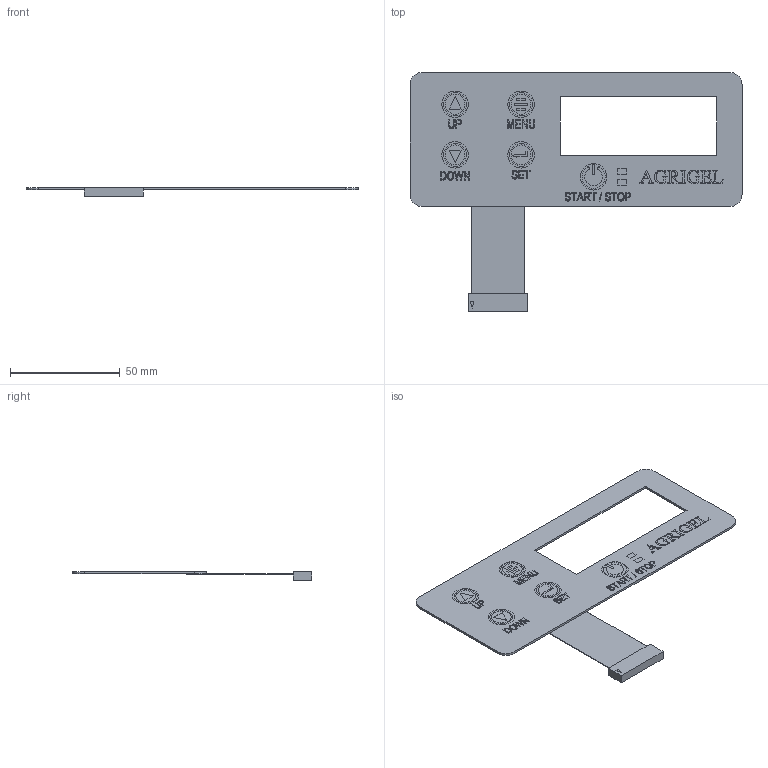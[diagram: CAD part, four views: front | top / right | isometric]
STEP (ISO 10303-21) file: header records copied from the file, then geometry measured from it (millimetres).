
FILE_DESCRIPTION( ( 'Unknown' ), '1' );
FILE_NAME( 'E:/Drawing Files/Agrigel/Center Pivot Flow Control System/Inclosure/CP Front Page/Key Pad.stp', 'Unknown', ( 'Unknown' ), ( 'Unknown' ), 'PSStep 15.0.49', 'Unknown', ' ' );
FILE_SCHEMA( ( 'AUTOMOTIVE_DESIGN { 1 0 10303 214 1 1 1 1 }' ) );
Length unit declared in the file: millimetre
Products named in the file (1): 1
Bounding box: 151 x 108.77 x 4.02 mm (x, y, z)
Volume: 8526.8 mm3; surface area: 17975.8 mm2
Topology: 1 solids, 1 shells, 403 faces, 1015 edges, 678 vertices
Faces by surface type: plane 318, extrusion 61, cylinder 24
Full cylindrical faces by diameter (mm): 9 x4, 10.5 x4, 12 x5
Entity records: 17997 total; most frequent: CARTESIAN_POINT 5349, ORIENTED_EDGE 1980, DIRECTION 1663, EDGE_CURVE 990, VECTOR 881, LINE 820, VERTEX_POINT 670, EDGE_LOOP 486
